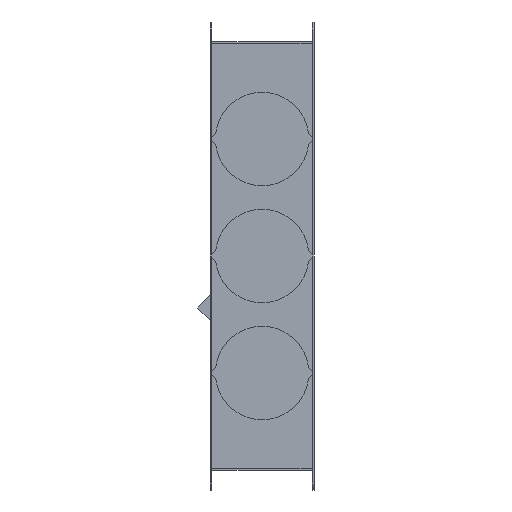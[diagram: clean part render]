
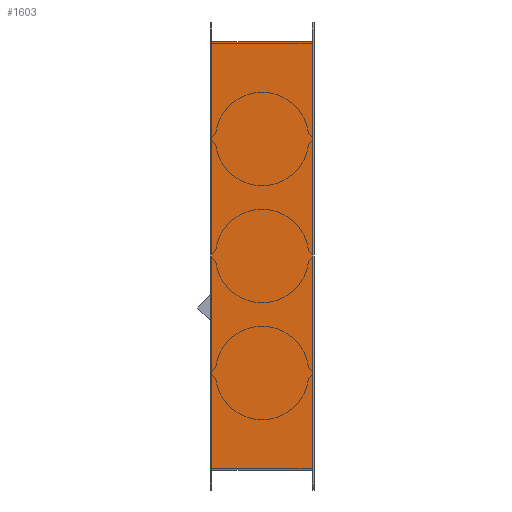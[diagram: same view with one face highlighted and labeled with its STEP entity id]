
A CAD part, left-side view. The second image highlights one B-rep face of the part: STEP entity #1603.
In plain terms, the highlighted planar face has unit normal (-1, 0, 0).
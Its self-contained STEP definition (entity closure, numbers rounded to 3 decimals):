
#131=LINE('',#2647,#287);
#145=LINE('',#2686,#301);
#161=LINE('',#2729,#317);
#162=LINE('',#2730,#318);
#287=VECTOR('',#2101,10.);
#301=VECTOR('',#2133,10.);
#317=VECTOR('',#2183,10.);
#318=VECTOR('',#2184,10.);
#374=PLANE('',#1755);
#524=FACE_OUTER_BOUND('',#634,.T.);
#634=EDGE_LOOP('',(#1444,#1445,#1446,#1447));
#838=VERTEX_POINT('',#2644);
#839=VERTEX_POINT('',#2646);
#854=VERTEX_POINT('',#2683);
#855=VERTEX_POINT('',#2685);
#1034=EDGE_CURVE('',#839,#838,#131,.T.);
#1053=EDGE_CURVE('',#855,#854,#145,.T.);
#1075=EDGE_CURVE('',#855,#838,#161,.F.);
#1076=EDGE_CURVE('',#854,#839,#162,.T.);
#1444=ORIENTED_EDGE('',*,*,#1034,.T.);
#1445=ORIENTED_EDGE('',*,*,#1075,.F.);
#1446=ORIENTED_EDGE('',*,*,#1053,.T.);
#1447=ORIENTED_EDGE('',*,*,#1076,.T.);
#1603=ADVANCED_FACE('',(#524),#374,.T.);
#1755=AXIS2_PLACEMENT_3D('',#2728,#2181,#2182);
#2101=DIRECTION('',(0.,0.,-1.));
#2133=DIRECTION('',(0.,0.,1.));
#2181=DIRECTION('center_axis',(-1.,0.,0.));
#2182=DIRECTION('ref_axis',(0.,0.,1.));
#2183=DIRECTION('',(0.,-1.,0.));
#2184=DIRECTION('',(0.,1.,0.));
#2644=CARTESIAN_POINT('',(-497.,58.,-247.));
#2646=CARTESIAN_POINT('',(-497.,58.,247.));
#2647=CARTESIAN_POINT('',(-497.,58.,-122.5));
#2683=CARTESIAN_POINT('',(-497.,-58.,247.));
#2685=CARTESIAN_POINT('',(-497.,-58.,-247.));
#2686=CARTESIAN_POINT('',(-497.,-58.,-122.5));
#2728=CARTESIAN_POINT('Origin',(-497.,-60.,-245.));
#2729=CARTESIAN_POINT('',(-497.,-60.,-247.));
#2730=CARTESIAN_POINT('',(-497.,-60.,247.));
